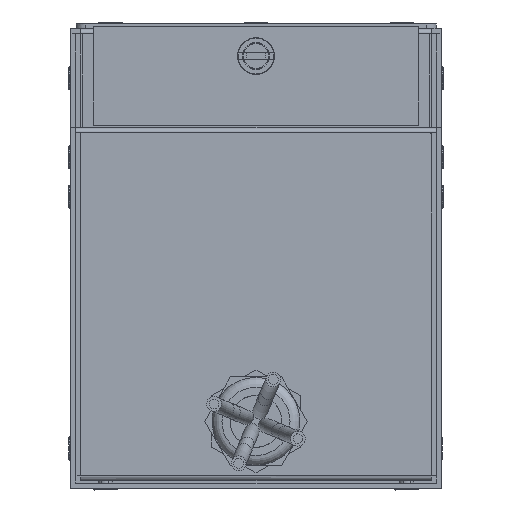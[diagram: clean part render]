
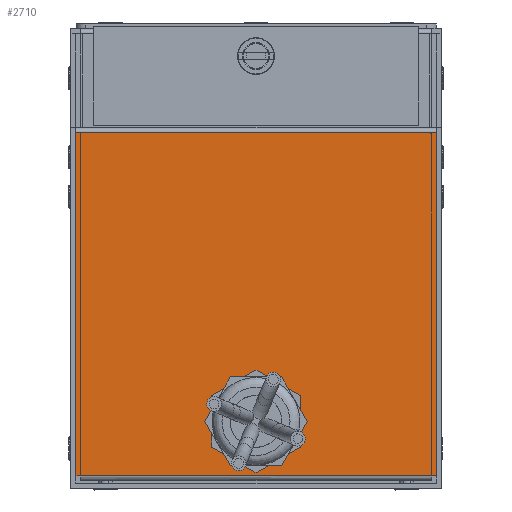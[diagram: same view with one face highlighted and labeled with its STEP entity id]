
A CAD part, front view. The second image highlights one B-rep face of the part: STEP entity #2710.
In plain terms, the highlighted planar face has unit normal (0, -1, 0).
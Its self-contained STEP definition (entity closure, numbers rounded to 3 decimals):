
#2710=ADVANCED_FACE('', (#2720,#2730), #2740, .T.);
#25760=AXIS2_PLACEMENT_3D('Ax2Pl3d', #25770, #25780, #25790);
#119410=CARTESIAN_POINT('', (355.291,-20.445,4.855)
);
#119420=CARTESIAN_POINT('', (355.291,-20.445,74.355)
);
#119430=CARTESIAN_POINT('', (355.291,-20.445,4.855)
);
#119440=CARTESIAN_POINT('', (283.291,-20.445,4.855)
);
#119450=CARTESIAN_POINT('', (283.291,-20.445,4.855)
);
#25770=CARTESIAN_POINT('HicPkt', (282.291,-20.445,
4.855));
#119490=CARTESIAN_POINT('', (355.291,-20.445,74.355)
);
#119500=CARTESIAN_POINT('', (282.291,-20.445,74.355)
);
#119510=CARTESIAN_POINT('', (282.291,-20.445,74.355)
);
#119520=CARTESIAN_POINT('', (282.291,-20.445,4.855)
);
#119530=CARTESIAN_POINT('', (282.291,-20.445,4.855)
);
#119540=CARTESIAN_POINT('', (318.791,-20.445,5.463)
);
#119550=CARTESIAN_POINT('', (327.791,-20.445,10.659)
);
#119560=CARTESIAN_POINT('', (318.791,-20.445,5.463)
);
#119570=CARTESIAN_POINT('', (309.791,-20.445,10.659)
);
#119580=CARTESIAN_POINT('', (309.791,-20.445,10.659)
);
#119590=CARTESIAN_POINT('', (309.791,-20.445,21.051)
);
#119600=CARTESIAN_POINT('', (309.791,-20.445,21.051)
);
#119610=CARTESIAN_POINT('', (318.791,-20.445,26.247)
);
#119620=CARTESIAN_POINT('', (318.791,-20.445,26.247)
);
#119630=CARTESIAN_POINT('', (327.791,-20.445,21.051)
);
#119640=CARTESIAN_POINT('', (327.791,-20.445,21.051)
);
#119650=CARTESIAN_POINT('', (327.791,-20.445,10.659)
);
#161800=DIRECTION('', (0.,0.,-1.));
#161810=DIRECTION('', (-1.,0.,0.));
#25780=DIRECTION('Axis', (0.,-1.,
0.));
#25790=DIRECTION('RefDirection', (0.,
0.,-1.));
#161830=DIRECTION('', (1.,0.,0.));
#161840=DIRECTION('', (0.,0.,1.));
#161850=DIRECTION('', (-1.,0.,0.));
#161860=DIRECTION('', (-0.866,0.,-0.5));
#161870=DIRECTION('', (-0.866,0.,0.5));
#161880=DIRECTION('', (0.,0.,1.));
#161890=DIRECTION('', (0.866,0.,0.5));
#161900=DIRECTION('', (0.866,0.,-0.5));
#161910=DIRECTION('', (0.,0.,-1.));
#172310=EDGE_CURVE('', #172300, #172280, #172320, .T.);
#172330=EDGE_CURVE('', #172280, #172340, #172350, .T.);
#172420=EDGE_CURVE('', #172430, #172300, #172440, .T.);
#172450=EDGE_CURVE('', #172460, #172430, #172470, .T.);
#172480=EDGE_CURVE('', #172340, #172460, #172490, .T.);
#172500=EDGE_CURVE('', #172510, #172520, #172530, .T.);
#172540=EDGE_CURVE('', #172520, #172550, #172560, .T.);
#172570=EDGE_CURVE('', #172550, #172580, #172590, .T.);
#172600=EDGE_CURVE('', #172580, #172610, #172620, .T.);
#172630=EDGE_CURVE('', #172610, #172640, #172650, .T.);
#172660=EDGE_CURVE('', #172640, #172510, #172670, .T.);
#191680=EDGE_LOOP('Edge_loop', (#191690,#191700,#191710,#191720,#191730)
);
#191740=EDGE_LOOP('Edge_loop', (#191750,#191760,#191770,#191780,#191790,
#191800));
#2730=FACE_BOUND('', #191740, .T.);
#2720=FACE_OUTER_BOUND('Face_outer_bound', #191680, .T.);
#172320=LINE('Line', #119430, #216620);
#172350=LINE('Line', #119440, #216630);
#172440=LINE('Line', #119490, #216650);
#172470=LINE('Line', #119510, #216660);
#172490=LINE('Line', #119530, #216670);
#172530=LINE('Line', #119540, #216680);
#172560=LINE('Line', #119570, #216690);
#172590=LINE('Line', #119590, #216700);
#172620=LINE('Line', #119610, #216710);
#172650=LINE('Line', #119630, #216720);
#172670=LINE('Line', #119650, #216730);
#191690=ORIENTED_EDGE('', *, *, #172330, .F.);
#191700=ORIENTED_EDGE('', *, *, #172310, .F.);
#191710=ORIENTED_EDGE('', *, *, #172420, .F.);
#191720=ORIENTED_EDGE('', *, *, #172450, .F.);
#191730=ORIENTED_EDGE('', *, *, #172480, .F.);
#191750=ORIENTED_EDGE('', *, *, #172500, .T.);
#191760=ORIENTED_EDGE('', *, *, #172540, .T.);
#191770=ORIENTED_EDGE('', *, *, #172570, .T.);
#191780=ORIENTED_EDGE('', *, *, #172600, .T.);
#191790=ORIENTED_EDGE('', *, *, #172630, .T.);
#191800=ORIENTED_EDGE('', *, *, #172660, .T.);
#2740=PLANE('Plane', #25760);
#216620=VECTOR('', #161800, 69.5);
#216630=VECTOR('', #161810, 72.);
#216650=VECTOR('', #161830, 73.);
#216660=VECTOR('', #161840, 69.5);
#216670=VECTOR('', #161850, 1.);
#216680=VECTOR('', #161860, 10.392);
#216690=VECTOR('', #161870, 10.392);
#216700=VECTOR('', #161880, 10.392);
#216710=VECTOR('', #161890, 10.392);
#216720=VECTOR('', #161900, 10.392);
#216730=VECTOR('', #161910, 10.392);
#172280=VERTEX_POINT('', #119410);
#172300=VERTEX_POINT('', #119420);
#172340=VERTEX_POINT('', #119450);
#172430=VERTEX_POINT('', #119500);
#172460=VERTEX_POINT('', #119520);
#172510=VERTEX_POINT('', #119550);
#172520=VERTEX_POINT('', #119560);
#172550=VERTEX_POINT('', #119580);
#172580=VERTEX_POINT('', #119600);
#172610=VERTEX_POINT('', #119620);
#172640=VERTEX_POINT('', #119640);
